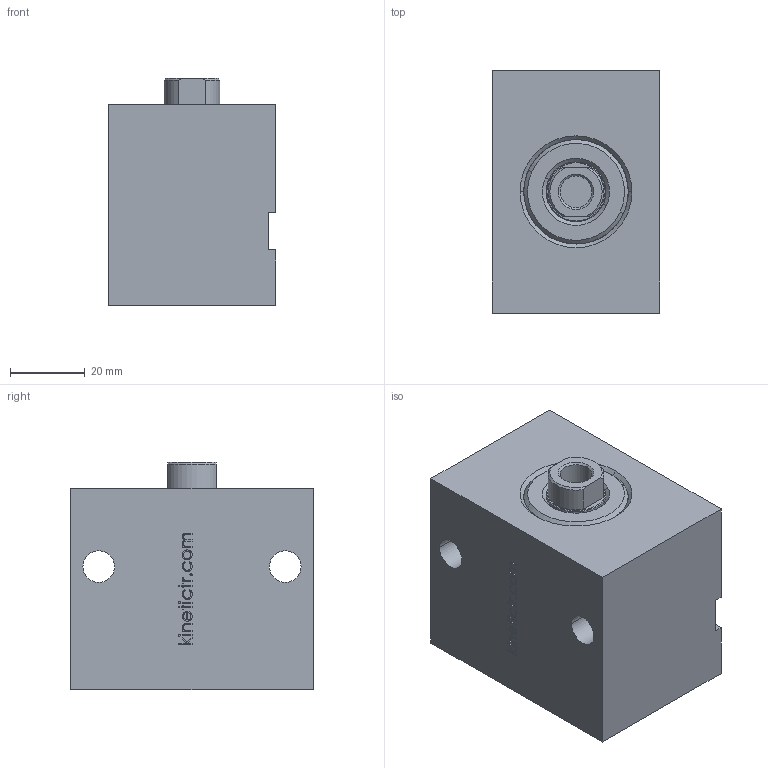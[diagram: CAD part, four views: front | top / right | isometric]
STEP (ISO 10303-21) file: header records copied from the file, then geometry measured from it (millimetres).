
FILE_DESCRIPTION (( 'STEP AP214' ), '1' );
FILE_NAME ('KBZ_11_25_10.STEP', '2019-09-11T18:36:12', ( '' ), ( '' ), 'SwSTEP 2.0', 'SolidWorks 2018', '' );
FILE_SCHEMA (( 'AUTOMOTIVE_DESIGN' ));
Length unit declared in the file: millimetre
Products named in the file (4): MIL; KBZ_11_25_10; KAPAK; GOVDE
Assembly tree (3 placements, depth 2):
  KBZ_11_25_10
    GOVDE
    KAPAK
    MIL
Bounding box: 45 x 65 x 61 mm (x, y, z)
Volume: 152444.3 mm3; surface area: 24844.3 mm2
Topology: 3 solids, 3 shells, 232 faces, 586 edges, 386 vertices
Faces by surface type: plane 117, bspline 69, cylinder 29, cone 17
Entity records: 10254 total; most frequent: CARTESIAN_POINT 4915, ORIENTED_EDGE 1172, DIRECTION 858, EDGE_CURVE 586, VERTEX_POINT 386, VECTOR 368, LINE 368, EDGE_LOOP 264
